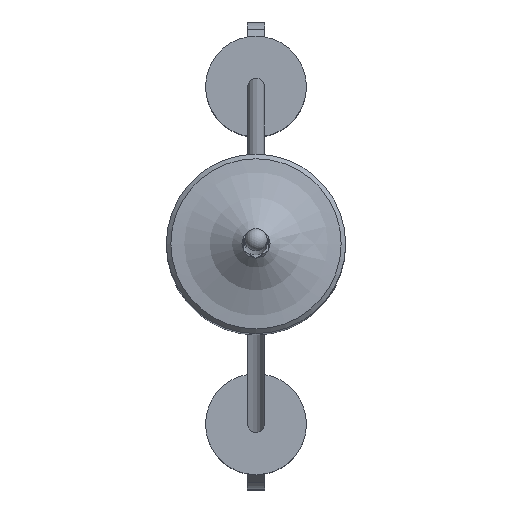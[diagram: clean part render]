
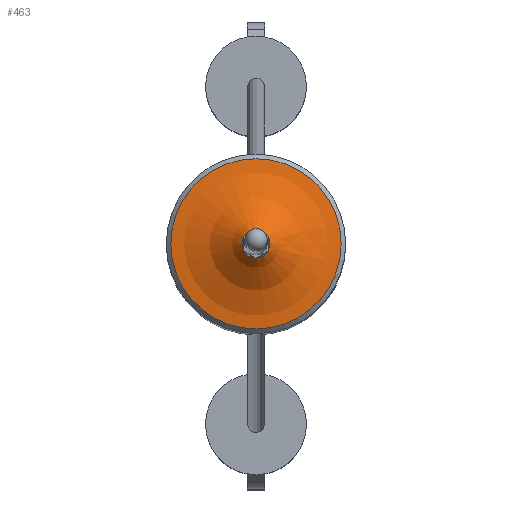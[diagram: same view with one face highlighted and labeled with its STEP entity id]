
A CAD part, top view. The second image highlights one B-rep face of the part: STEP entity #463.
In plain terms, the highlighted toroidal (fillet/blend) face has major radius 4 mm and minor radius 4.524 mm.
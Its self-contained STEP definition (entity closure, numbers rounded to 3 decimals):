
#57 = CARTESIAN_POINT ( 'NONE',  ( 0.222, -0.605, -3.5 ) ) ;
#76 = CARTESIAN_POINT ( 'NONE',  ( 0.413, 0.495, -3.5 ) ) ;
#77 = DIRECTION ( 'NONE',  ( 1., 0., 0. ) ) ;
#91 = ORIENTED_EDGE ( 'NONE', *, *, #1135, .F. ) ;
#97 = ORIENTED_EDGE ( 'NONE', *, *, #1212, .F. ) ;
#108 = EDGE_LOOP ( 'NONE', ( #91, #1533, #1076, #97, #1002, #1861 ) ) ;
#111 = VERTEX_POINT ( 'NONE', #536 ) ;
#116 = EDGE_LOOP ( 'NONE', ( #296 ) ) ;
#130 = CARTESIAN_POINT ( 'NONE',  ( 0.606, -0.221, -3.5 ) ) ;
#201 = CARTESIAN_POINT ( 'NONE',  ( 0., -0.635, -3.5 ) ) ;
#235 = CARTESIAN_POINT ( 'NONE',  ( 0., 0.635, -3.5 ) ) ;
#237 = VERTEX_POINT ( 'NONE', #733 ) ;
#243 = CARTESIAN_POINT ( 'NONE',  ( -0.413, -0.495, -3.5 ) ) ;
#244 = CARTESIAN_POINT ( 'NONE',  ( 0., 0., -4.995 ) ) ;
#270 = B_SPLINE_CURVE_WITH_KNOTS ( 'NONE', 3,
 ( #642, #1281, #1921, #1938, #1127, #498 ),
 .UNSPECIFIED., .F., .F.,
 ( 4, 2, 4 ),
 ( 0., 0., 0.001 ),
 .UNSPECIFIED. ) ;
#272 = CARTESIAN_POINT ( 'NONE',  ( 3.795, 0., -4.995 ) ) ;
#296 = ORIENTED_EDGE ( 'NONE', *, *, #726, .T. ) ;
#298 = CARTESIAN_POINT ( 'NONE',  ( -0.413, 0.495, -3.5 ) ) ;
#309 = EDGE_CURVE ( 'NONE', #111, #2029, #270, .T. ) ;
#403 = CARTESIAN_POINT ( 'NONE',  ( 0., -0.635, -3.5 ) ) ;
#410 = CARTESIAN_POINT ( 'NONE',  ( 0.55, -0.317, -3.5 ) ) ;
#411 = DIRECTION ( 'NONE',  ( 1., 0., 0. ) ) ;
#457 = VERTEX_POINT ( 'NONE', #403 ) ;
#462 = CARTESIAN_POINT ( 'NONE',  ( -0.55, -0.317, -3.5 ) ) ;
#463 = ADVANCED_FACE ( 'NONE', ( #890, #600 ), #1192, .F. ) ;
#498 = CARTESIAN_POINT ( 'NONE',  ( -0.55, -0.317, -3.5 ) ) ;
#536 = CARTESIAN_POINT ( 'NONE',  ( -0.55, 0.317, -3.5 ) ) ;
#537 = B_SPLINE_CURVE_WITH_KNOTS ( 'NONE', 3,
 ( #1251, #891, #1543, #298, #937, #1582 ),
 .UNSPECIFIED., .F., .F.,
 ( 4, 2, 4 ),
 ( 0., 0., 0.001 ),
 .UNSPECIFIED. ) ;
#550 = CARTESIAN_POINT ( 'NONE',  ( -0.222, -0.605, -3.5 ) ) ;
#572 = B_SPLINE_CURVE_WITH_KNOTS ( 'NONE', 3,
 ( #1578, #130, #776, #1268, #1420, #617 ),
 .UNSPECIFIED., .F., .F.,
 ( 4, 2, 4 ),
 ( 0., 0., 0.001 ),
 .UNSPECIFIED. ) ;
#600 = FACE_OUTER_BOUND ( 'NONE', #108, .T. ) ;
#617 = CARTESIAN_POINT ( 'NONE',  ( 0.55, 0.317, -3.5 ) ) ;
#642 = CARTESIAN_POINT ( 'NONE',  ( -0.55, 0.317, -3.5 ) ) ;
#689 = VERTEX_POINT ( 'NONE', #1376 ) ;
#705 = CARTESIAN_POINT ( 'NONE',  ( -0.55, -0.317, -3.5 ) ) ;
#711 = CARTESIAN_POINT ( 'NONE',  ( 0.55, 0.317, -3.5 ) ) ;
#726 = EDGE_CURVE ( 'NONE', #2067, #2067, #1913, .T. ) ;
#729 = CARTESIAN_POINT ( 'NONE',  ( 0., 0., -0.476 ) ) ;
#733 = CARTESIAN_POINT ( 'NONE',  ( 0., 0.635, -3.5 ) ) ;
#776 = CARTESIAN_POINT ( 'NONE',  ( 0.635, -0.11, -3.5 ) ) ;
#859 = CARTESIAN_POINT ( 'NONE',  ( 0.112, 0.635, -3.5 ) ) ;
#875 = CARTESIAN_POINT ( 'NONE',  ( 0., -0.635, -3.5 ) ) ;
#890 = FACE_OUTER_BOUND ( 'NONE', #116, .T. ) ;
#891 = CARTESIAN_POINT ( 'NONE',  ( -0.112, 0.635, -3.5 ) ) ;
#937 = CARTESIAN_POINT ( 'NONE',  ( -0.494, 0.414, -3.5 ) ) ;
#991 = EDGE_CURVE ( 'NONE', #1936, #689, #572, .T. ) ;
#1002 = ORIENTED_EDGE ( 'NONE', *, *, #309, .F. ) ;
#1029 = CARTESIAN_POINT ( 'NONE',  ( 0.222, 0.605, -3.5 ) ) ;
#1035 = CARTESIAN_POINT ( 'NONE',  ( 0.413, -0.495, -3.5 ) ) ;
#1076 = ORIENTED_EDGE ( 'NONE', *, *, #1574, .F. ) ;
#1127 = CARTESIAN_POINT ( 'NONE',  ( -0.606, -0.221, -3.5 ) ) ;
#1135 = EDGE_CURVE ( 'NONE', #689, #237, #1459, .T. ) ;
#1182 = CARTESIAN_POINT ( 'NONE',  ( -0.112, -0.635, -3.5 ) ) ;
#1192 = TOROIDAL_SURFACE ( 'NONE', #1264, 4., 4.524 ) ;
#1212 = EDGE_CURVE ( 'NONE', #2029, #457, #1349, .T. ) ;
#1251 = CARTESIAN_POINT ( 'NONE',  ( 0., 0.635, -3.5 ) ) ;
#1264 = AXIS2_PLACEMENT_3D ( 'NONE', #729, #1886, #411 ) ;
#1268 = CARTESIAN_POINT ( 'NONE',  ( 0.635, 0.11, -3.5 ) ) ;
#1281 = CARTESIAN_POINT ( 'NONE',  ( -0.606, 0.221, -3.5 ) ) ;
#1345 = CARTESIAN_POINT ( 'NONE',  ( -0.494, -0.414, -3.5 ) ) ;
#1349 = B_SPLINE_CURVE_WITH_KNOTS ( 'NONE', 3,
 ( #705, #1345, #243, #550, #1182, #875 ),
 .UNSPECIFIED., .F., .F.,
 ( 4, 2, 4 ),
 ( 0., 0., 0.001 ),
 .UNSPECIFIED. ) ;
#1364 = B_SPLINE_CURVE_WITH_KNOTS ( 'NONE', 3,
 ( #201, #1839, #57, #1035, #1515, #1993 ),
 .UNSPECIFIED., .F., .F.,
 ( 4, 2, 4 ),
 ( 0., 0., 0.001 ),
 .UNSPECIFIED. ) ;
#1376 = CARTESIAN_POINT ( 'NONE',  ( 0.55, 0.317, -3.5 ) ) ;
#1420 = CARTESIAN_POINT ( 'NONE',  ( 0.606, 0.221, -3.5 ) ) ;
#1459 = B_SPLINE_CURVE_WITH_KNOTS ( 'NONE', 3,
 ( #711, #1859, #76, #1029, #859, #235 ),
 .UNSPECIFIED., .F., .F.,
 ( 4, 2, 4 ),
 ( 0., 0., 0.001 ),
 .UNSPECIFIED. ) ;
#1515 = CARTESIAN_POINT ( 'NONE',  ( 0.494, -0.414, -3.5 ) ) ;
#1525 = DIRECTION ( 'NONE',  ( 0., 0., 1. ) ) ;
#1533 = ORIENTED_EDGE ( 'NONE', *, *, #991, .F. ) ;
#1543 = CARTESIAN_POINT ( 'NONE',  ( -0.222, 0.605, -3.5 ) ) ;
#1574 = EDGE_CURVE ( 'NONE', #457, #1936, #1364, .T. ) ;
#1578 = CARTESIAN_POINT ( 'NONE',  ( 0.55, -0.317, -3.5 ) ) ;
#1582 = CARTESIAN_POINT ( 'NONE',  ( -0.55, 0.317, -3.5 ) ) ;
#1673 = AXIS2_PLACEMENT_3D ( 'NONE', #244, #1525, #77 ) ;
#1762 = EDGE_CURVE ( 'NONE', #237, #111, #537, .T. ) ;
#1839 = CARTESIAN_POINT ( 'NONE',  ( 0.112, -0.635, -3.5 ) ) ;
#1859 = CARTESIAN_POINT ( 'NONE',  ( 0.494, 0.414, -3.5 ) ) ;
#1861 = ORIENTED_EDGE ( 'NONE', *, *, #1762, .F. ) ;
#1886 = DIRECTION ( 'NONE',  ( 0., 0., 1. ) ) ;
#1913 = CIRCLE ( 'NONE', #1673, 3.795 ) ;
#1921 = CARTESIAN_POINT ( 'NONE',  ( -0.635, 0.11, -3.5 ) ) ;
#1936 = VERTEX_POINT ( 'NONE', #410 ) ;
#1938 = CARTESIAN_POINT ( 'NONE',  ( -0.635, -0.11, -3.5 ) ) ;
#1993 = CARTESIAN_POINT ( 'NONE',  ( 0.55, -0.317, -3.5 ) ) ;
#2029 = VERTEX_POINT ( 'NONE', #462 ) ;
#2067 = VERTEX_POINT ( 'NONE', #272 ) ;
